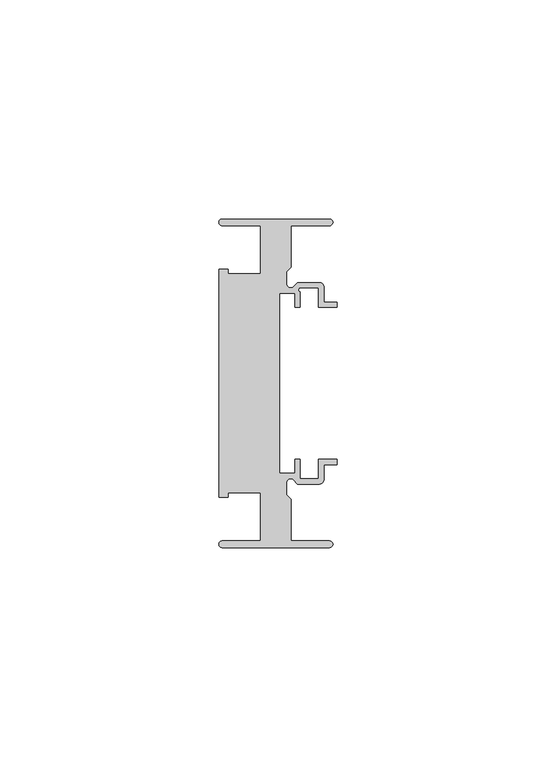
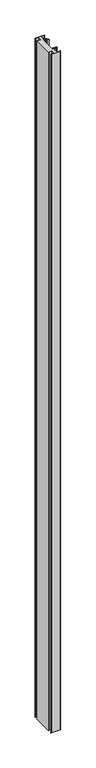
"""IFC4 building model written with IfcOpenShell, lengths in millimetres: member geometry, Прямоугольный импост : 7-AMG-2-Профиль 26Х75 Низ Л."""

from ifc_helpers import new_model, si_unit, point, frame, frame_2d, origin, place, context, project, spatial, polyline, circle_curve, trimmed, segment, composite_curve, outline, extrude, source, transform, mapped, element, save


def member_8569c242(model_context):
    return source(origin(), model_context, "Body", "SweptSolid", [
        extrude(outline(composite_curve([segment(polyline([(-1.7, -37.5), (-26.25, -37.5)]), True, "CONTINUOUS"), segment(trimmed(circle_curve(frame_2d((-26.25, -36.75)), 0.75), [point((-26.25, -37.5))], [point((-26.25, -36.0))], False, "CARTESIAN"), True, "CONTINUOUS"), segment(polyline([(-26.25, -36.0), (-17.5, -36.0), (-17.5, -25.0), (-24.9359877, -25.0), (-24.9359877, -26.0), (-27.0, -26.0), (-27.0, 26.0), (-24.9359877, 26.0), (-24.9359877, 25.0), (-17.5, 25.0), (-17.5, 36.0), (-26.25, 36.0)]), True, "CONTINUOUS"), segment(trimmed(circle_curve(frame_2d((-26.25, 36.75)), 0.75), [point((-26.25, 36.0))], [point((-26.25, 37.5))], False, "CARTESIAN"), True, "CONTINUOUS"), segment(polyline([(-26.25, 37.5), (-1.7, 37.5)]), True, "CONTINUOUS"), segment(trimmed(circle_curve(frame_2d((-1.7, 36.75)), 0.75), [point((-1.7, 37.5))], [point((-1.7, 36.0))], False, "CARTESIAN"), True, "CONTINUOUS"), segment(polyline([(-1.7, 36.0), (-10.5, 36.0), (-10.5, 26.5029437), (-11.5, 25.5029437), (-11.5, 22.6727922)]), True, "CONTINUOUS"), segment(trimmed(circle_curve(frame_2d((-10.6, 22.6727922)), 0.9), [point((-11.5, 22.6727922))], [point((-9.9636039, 22.0363961))], True, "CARTESIAN"), True, "CONTINUOUS"), segment(polyline([(-9.9636039, 22.0363961), (-9.0, 23.0), (-4.0, 23.0)]), True, "CONTINUOUS"), segment(trimmed(circle_curve(frame_2d((-4.0, 22.0)), 1.0), [point((-4.0, 23.0))], [point((-3.0, 22.0))], False, "CARTESIAN"), True, "CONTINUOUS"), segment(polyline([(-3.0, 22.0), (-3.0, 18.55), (0.0, 18.55), (0.0, 17.35), (-4.2, 17.35), (-4.2, 21.8), (-8.5029437, 21.8)]), True, "CONTINUOUS"), segment(trimmed(circle_curve(frame_2d((-8.3343131, 21.3314262)), 0.4979937), [point((-8.5029437, 21.8))], [point((-8.45, 20.8470563))], True, "CARTESIAN"), True, "CONTINUOUS"), segment(polyline([(-8.45, 20.8470563), (-8.45, 17.35), (-9.65, 17.35), (-9.65, 20.55), (-13.15, 20.55), (-13.15, -20.55), (-9.65, -20.55), (-9.65, -17.35), (-8.45, -17.35), (-8.45, -21.8), (-4.2, -21.8), (-4.2, -17.35), (0.0, -17.35), (0.0, -18.55), (-3.0, -18.55), (-3.0, -22.0)]), True, "CONTINUOUS"), segment(trimmed(circle_curve(frame_2d((-4.0, -22.0)), 1.0), [point((-3.0, -22.0))], [point((-4.0, -23.0))], False, "CARTESIAN"), True, "CONTINUOUS"), segment(polyline([(-4.0, -23.0), (-9.0, -23.0), (-9.9636039, -22.0363961)]), True, "CONTINUOUS"), segment(trimmed(circle_curve(frame_2d((-10.6, -22.6727922)), 0.9), [point((-9.9636039, -22.0363961))], [point((-11.5, -22.6727922))], True, "CARTESIAN"), True, "CONTINUOUS"), segment(polyline([(-11.5, -22.6727922), (-11.5, -25.5029437), (-10.5, -26.5029437), (-10.5, -36.0), (-1.7, -36.0)]), True, "CONTINUOUS"), segment(trimmed(circle_curve(frame_2d((-1.7, -36.75)), 0.75), [point((-1.7, -36.0))], [point((-1.7, -37.5))], False, "CARTESIAN"), True, "CONTINUOUS")], self_intersect=False)), frame((0.0, 0.0, -1904.1748553), z_axis=(0.0, 0.0, 1.0), x_axis=(1.0, 0.0, 0.0)), (0.0, 0.0, 1.0), 1904.1748553),
    ])


if __name__ == "__main__":
    model = new_model("IFC4")
    model_context = context("Model", 3, world=origin())
    ifc_project = project(units=[si_unit("LENGTHUNIT", "METRE", prefix="MILLI")], contexts=[model_context])
    site = spatial("IfcSite", under=ifc_project)
    building = spatial("IfcBuilding", under=site)
    placement = place(None, origin())
    member_shape = member_8569c242(model_context)
    element("IfcMember", 1, ObjectType="Прямоугольный импост : 7-AMG-2-Профиль 26Х75 Низ Л", at=placement, inside=building, context=model_context, shape_type="MappedRepresentation", body=[
        mapped(member_shape, transform((0.0, 0.0, 0.0), x_axis=(1.0, 0.0, 0.0), y_axis=(0.0, 1.0, 0.0), z_axis=(0.0, 0.0, 1.0))),
    ])
    save(model, "model.ifc")
